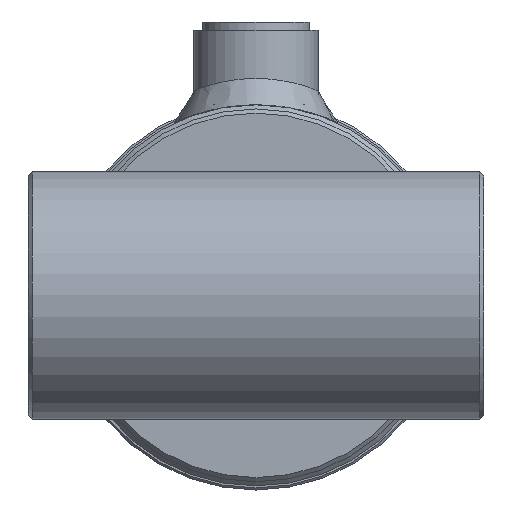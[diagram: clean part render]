
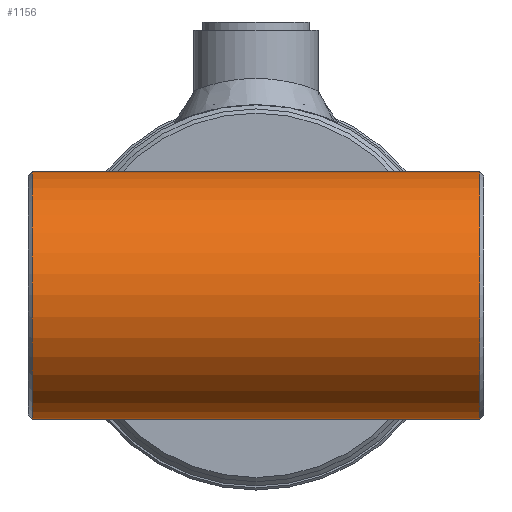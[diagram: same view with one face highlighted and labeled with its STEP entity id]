
A CAD part, left-side view. The second image highlights one B-rep face of the part: STEP entity #1156.
In plain terms, the highlighted cylindrical face has radius 30 mm (diameter 60 mm), a full revolution.
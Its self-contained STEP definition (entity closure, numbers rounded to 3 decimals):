
#1156 = ADVANCED_FACE( '', ( #2211, #2212 ), #2213, .T. );
#2211 = FACE_OUTER_BOUND( '', #8871, .T. );
#2212 = FACE_OUTER_BOUND( '', #8872, .T. );
#2213 = CYLINDRICAL_SURFACE( '', #8873, 30. );
#8871 = EDGE_LOOP( '', ( #12364 ) );
#8872 = EDGE_LOOP( '', ( #12365 ) );
#8873 = AXIS2_PLACEMENT_3D( '', #12366, #12367, #12368 );
#12364 = ORIENTED_EDGE( '', *, *, #13087, .T. );
#12365 = ORIENTED_EDGE( '', *, *, #13151, .T. );
#12366 = CARTESIAN_POINT( '', ( 0., -55., 0. ) );
#12367 = DIRECTION( '', ( 0., -1., 0. ) );
#12368 = DIRECTION( '', ( 0., 0., 1. ) );
#13087 = EDGE_CURVE( '', #13968, #13968, #13969, .F. );
#13151 = EDGE_CURVE( '', #14067, #14067, #14068, .T. );
#13968 = VERTEX_POINT( '', #16118 );
#13969 = CIRCLE( '', #16119, 30. );
#14067 = VERTEX_POINT( '', #16501 );
#14068 = CIRCLE( '', #16502, 30. );
#16118 = CARTESIAN_POINT( '', ( 0., 54., 30. ) );
#16119 = AXIS2_PLACEMENT_3D( '', #18519, #18520, #18521 );
#16501 = CARTESIAN_POINT( '', ( 0., -54., 30. ) );
#16502 = AXIS2_PLACEMENT_3D( '', #18597, #18598, #18599 );
#18519 = CARTESIAN_POINT( '', ( 0., 54., 0. ) );
#18520 = DIRECTION( '', ( 0., 1., 0. ) );
#18521 = DIRECTION( '', ( 0., 0., 1. ) );
#18597 = CARTESIAN_POINT( '', ( 0., -54., 0. ) );
#18598 = DIRECTION( '', ( 0., 1., 0. ) );
#18599 = DIRECTION( '', ( 0., 0., 1. ) );
